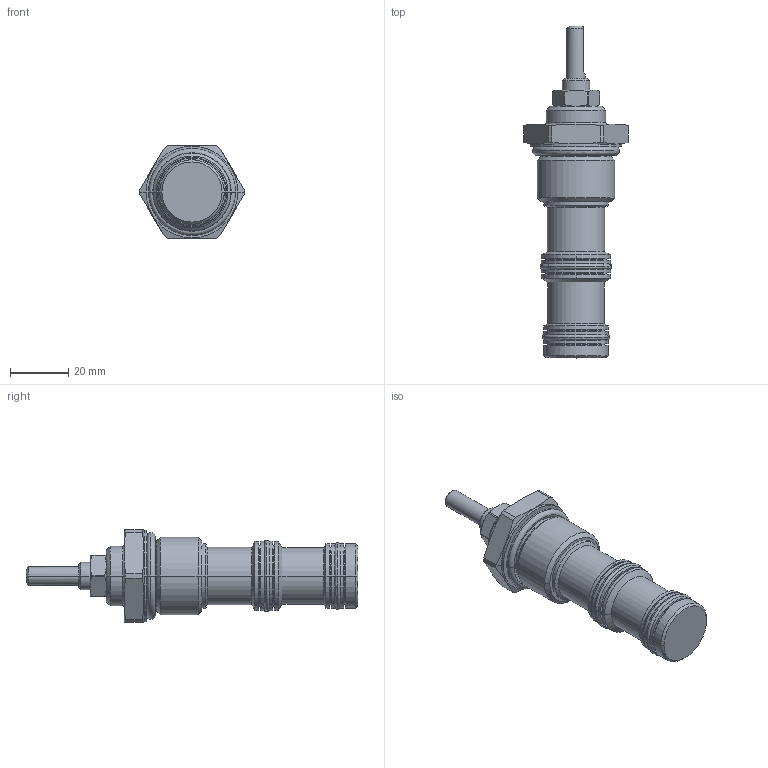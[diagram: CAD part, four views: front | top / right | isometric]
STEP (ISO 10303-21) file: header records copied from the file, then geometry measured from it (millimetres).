
FILE_DESCRIPTION((''),'2;1');
FILE_NAME('5423500_SW0001','2009-02-03T',('jcs'),(''),'PRO/ENGINEER BY PARAMETRIC TECHNOLOGY CORPORATION, 2008010','PRO/ENGINEER BY PARAMETRIC TECHNOLOGY CORPORATION, 2008010','');
FILE_SCHEMA(('CONFIG_CONTROL_DESIGN'));
Length unit declared in the file: inch
Products named in the file (1): 5423500_SW0001
Bounding box: 35.81 x 114.06 x 31.75 mm (x, y, z)
Volume: 39551.4 mm3; surface area: 11571.4 mm2
Topology: 4 solids, 4 shells, 176 faces, 391 edges, 231 vertices
Faces by surface type: cylinder 58, cone 42, plane 30, revolution 24, torus 22
Entity records: 5557 total; most frequent: CARTESIAN_POINT 1572, DIRECTION 875, ORIENTED_EDGE 782, EDGE_CURVE 391, AXIS2_PLACEMENT_3D 370, VERTEX_POINT 231, CIRCLE 218, EDGE_LOOP 190
